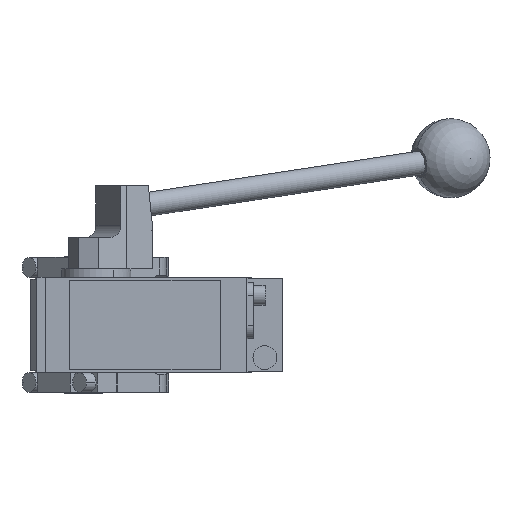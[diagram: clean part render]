
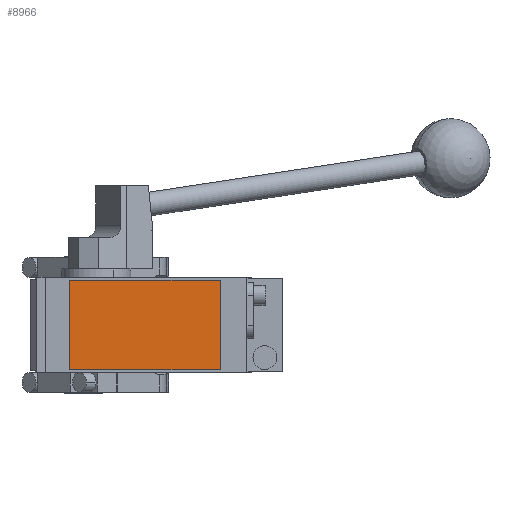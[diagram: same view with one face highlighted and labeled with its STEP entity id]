
A CAD part, front view. The second image highlights one B-rep face of the part: STEP entity #8966.
In plain terms, the highlighted planar face has unit normal (0, -1, 0).
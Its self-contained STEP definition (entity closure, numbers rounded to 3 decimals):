
#151 = CARTESIAN_POINT ( 'NONE',  ( -7., -280.5, 22.5 ) ) ;
#572 = VECTOR ( 'NONE', #13796, 1000. ) ;
#832 = LINE ( 'NONE', #151, #10598 ) ;
#1160 = EDGE_CURVE ( 'NONE', #6135, #8834, #10297, .T. ) ;
#2088 = VECTOR ( 'NONE', #3825, 1000. ) ;
#2255 = EDGE_CURVE ( 'NONE', #11300, #13768, #5395, .T. ) ;
#2577 = CARTESIAN_POINT ( 'NONE',  ( -7., -280.5, 22.5 ) ) ;
#2645 = ORIENTED_EDGE ( 'NONE', *, *, #13734, .T. ) ;
#3825 = DIRECTION ( 'NONE',  ( -1., 0., 0. ) ) ;
#3869 = PLANE ( 'NONE',  #13301 ) ;
#4483 = CARTESIAN_POINT ( 'NONE',  ( -7., -280.5, -22.5 ) ) ;
#4830 = CARTESIAN_POINT ( 'NONE',  ( 69., -280.5, -22.5 ) ) ;
#5395 = LINE ( 'NONE', #4483, #9105 ) ;
#5851 = ORIENTED_EDGE ( 'NONE', *, *, #2255, .T. ) ;
#5913 = CARTESIAN_POINT ( 'NONE',  ( -7., -280.5, -22.5 ) ) ;
#6104 = CARTESIAN_POINT ( 'NONE',  ( 69., -280.5, 22.5 ) ) ;
#6135 = VERTEX_POINT ( 'NONE', #6104 ) ;
#6558 = EDGE_CURVE ( 'NONE', #13768, #6135, #13291, .T. ) ;
#6729 = DIRECTION ( 'NONE',  ( 0., 0., -1. ) ) ;
#7542 = DIRECTION ( 'NONE',  ( 0., 0., -1. ) ) ;
#7721 = DIRECTION ( 'NONE',  ( 1., 0., 0. ) ) ;
#8464 = FACE_OUTER_BOUND ( 'NONE', #12692, .T. ) ;
#8693 = ORIENTED_EDGE ( 'NONE', *, *, #1160, .T. ) ;
#8834 = VERTEX_POINT ( 'NONE', #2577 ) ;
#8966 = ADVANCED_FACE ( 'NONE', ( #8464 ), #3869, .T. ) ;
#9105 = VECTOR ( 'NONE', #7721, 1000. ) ;
#10203 = ORIENTED_EDGE ( 'NONE', *, *, #6558, .T. ) ;
#10297 = LINE ( 'NONE', #14898, #2088 ) ;
#10598 = VECTOR ( 'NONE', #6729, 1000. ) ;
#11300 = VERTEX_POINT ( 'NONE', #5913 ) ;
#11904 = CARTESIAN_POINT ( 'NONE',  ( 0., -280.5, 0. ) ) ;
#11978 = DIRECTION ( 'NONE',  ( 0., -1., 0. ) ) ;
#12147 = CARTESIAN_POINT ( 'NONE',  ( 69., -280.5, 22.5 ) ) ;
#12692 = EDGE_LOOP ( 'NONE', ( #2645, #5851, #10203, #8693 ) ) ;
#13291 = LINE ( 'NONE', #12147, #572 ) ;
#13301 = AXIS2_PLACEMENT_3D ( 'NONE', #11904, #11978, #7542 ) ;
#13734 = EDGE_CURVE ( 'NONE', #8834, #11300, #832, .T. ) ;
#13768 = VERTEX_POINT ( 'NONE', #4830 ) ;
#13796 = DIRECTION ( 'NONE',  ( 0., 0., 1. ) ) ;
#14898 = CARTESIAN_POINT ( 'NONE',  ( -7., -280.5, 22.5 ) ) ;
